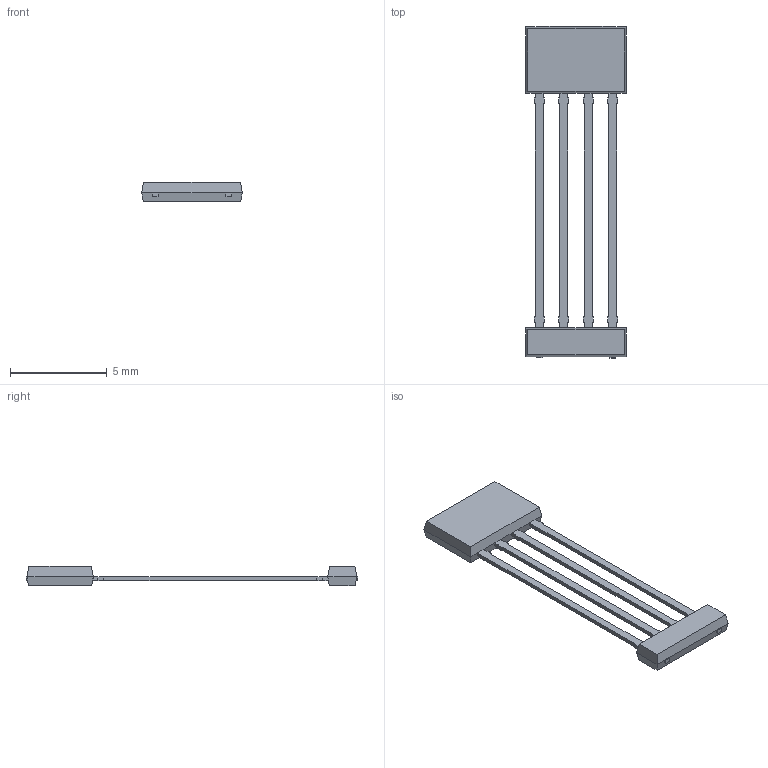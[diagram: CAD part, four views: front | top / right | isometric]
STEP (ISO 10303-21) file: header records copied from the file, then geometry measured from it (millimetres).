
FILE_DESCRIPTION(('STEP AP214'),'1');
FILE_NAME('A1366LKTTN-5-T (single body solid).stp','2022-03-15T18:50:24',(' '),(' '),'Spatial InterOp 3D',' ',' ');
FILE_SCHEMA(('AUTOMOTIVE_DESIGN { 1 0 10303 214 1 1 1 1 }'));
Length unit declared in the file: metre
Products named in the file (2): A1366LKTTN-5-T (single body solid); KT-4 package
Assembly tree (1 placements, depth 2):
  A1366LKTTN-5-T (single body solid)
    KT-4 package
Bounding box: 5.21 x 17.18 x 1 mm (x, y, z)
Volume: 28.2 mm3; surface area: 136.9 mm2
Topology: 1 solids, 1 shells, 126 faces, 346 edges, 224 vertices
Faces by surface type: plane 122, cylinder 4
Entity records: 3962 total; most frequent: CARTESIAN_POINT 698, ORIENTED_EDGE 692, DIRECTION 610, EDGE_CURVE 346, LINE 338, VECTOR 338, VERTEX_POINT 224, AXIS2_PLACEMENT_3D 136
